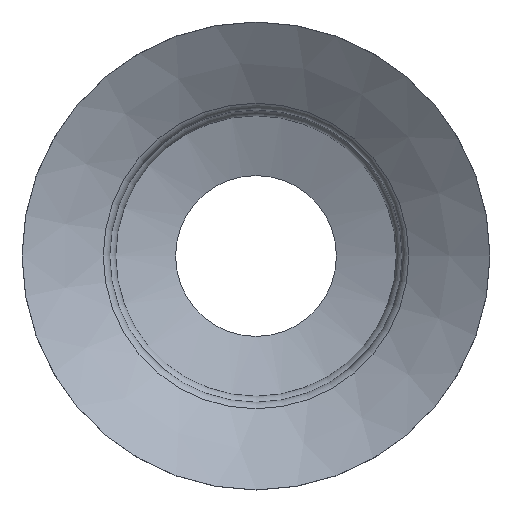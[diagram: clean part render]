
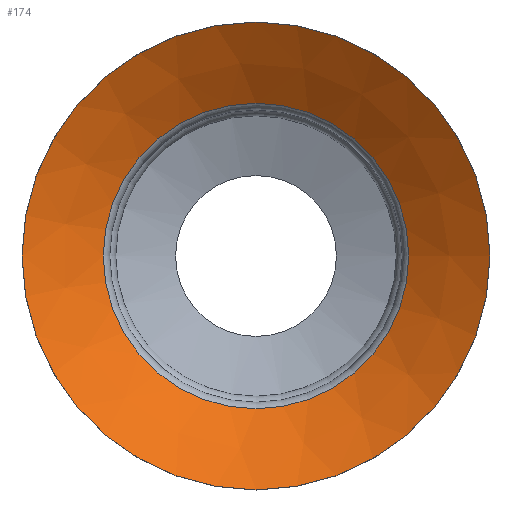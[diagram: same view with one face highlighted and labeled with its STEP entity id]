
A CAD part, front view. The second image highlights one B-rep face of the part: STEP entity #174.
In plain terms, the highlighted conical face has half-angle 56.562 degrees and reference radius 13.225 mm.
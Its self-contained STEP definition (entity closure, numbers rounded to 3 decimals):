
#11 = VERTEX_POINT ( 'NONE', #158 ) ;
#20 = CARTESIAN_POINT ( 'NONE',  ( 0., 3.666, 0. ) ) ;
#23 = AXIS2_PLACEMENT_3D ( 'NONE', #20, #168, #339 ) ;
#24 = CARTESIAN_POINT ( 'NONE',  ( 0., 1.833, 0. ) ) ;
#48 = DIRECTION ( 'NONE',  ( 0., 1., 0. ) ) ;
#60 = CONICAL_SURFACE ( 'NONE', #478, 13.224, 0.987 ) ;
#78 = CIRCLE ( 'NONE', #256, 16. ) ;
#120 = EDGE_CURVE ( 'NONE', #11, #11, #425, .T. ) ;
#158 = CARTESIAN_POINT ( 'NONE',  ( 10.449, 3.666, 0. ) ) ;
#168 = DIRECTION ( 'NONE',  ( 0., 1., 0. ) ) ;
#174 = ADVANCED_FACE ( 'NONE', ( #387, #279 ), #60, .F. ) ;
#175 = DIRECTION ( 'NONE',  ( 0., -1., 0. ) ) ;
#208 = EDGE_CURVE ( 'NONE', #354, #354, #78, .T. ) ;
#220 = ORIENTED_EDGE ( 'NONE', *, *, #120, .T. ) ;
#256 = AXIS2_PLACEMENT_3D ( 'NONE', #467, #48, #457 ) ;
#279 = FACE_BOUND ( 'NONE', #328, .T. ) ;
#318 = DIRECTION ( 'NONE',  ( -1., 0., 0. ) ) ;
#327 = ORIENTED_EDGE ( 'NONE', *, *, #208, .F. ) ;
#328 = EDGE_LOOP ( 'NONE', ( #220 ) ) ;
#339 = DIRECTION ( 'NONE',  ( 1., 0., 0. ) ) ;
#354 = VERTEX_POINT ( 'NONE', #360 ) ;
#360 = CARTESIAN_POINT ( 'NONE',  ( 16., 0., 0. ) ) ;
#366 = EDGE_LOOP ( 'NONE', ( #327 ) ) ;
#387 = FACE_OUTER_BOUND ( 'NONE', #366, .T. ) ;
#425 = CIRCLE ( 'NONE', #23, 10.449 ) ;
#457 = DIRECTION ( 'NONE',  ( 1., 0., 0. ) ) ;
#467 = CARTESIAN_POINT ( 'NONE',  ( 0., 0., 0. ) ) ;
#478 = AXIS2_PLACEMENT_3D ( 'NONE', #24, #175, #318 ) ;
